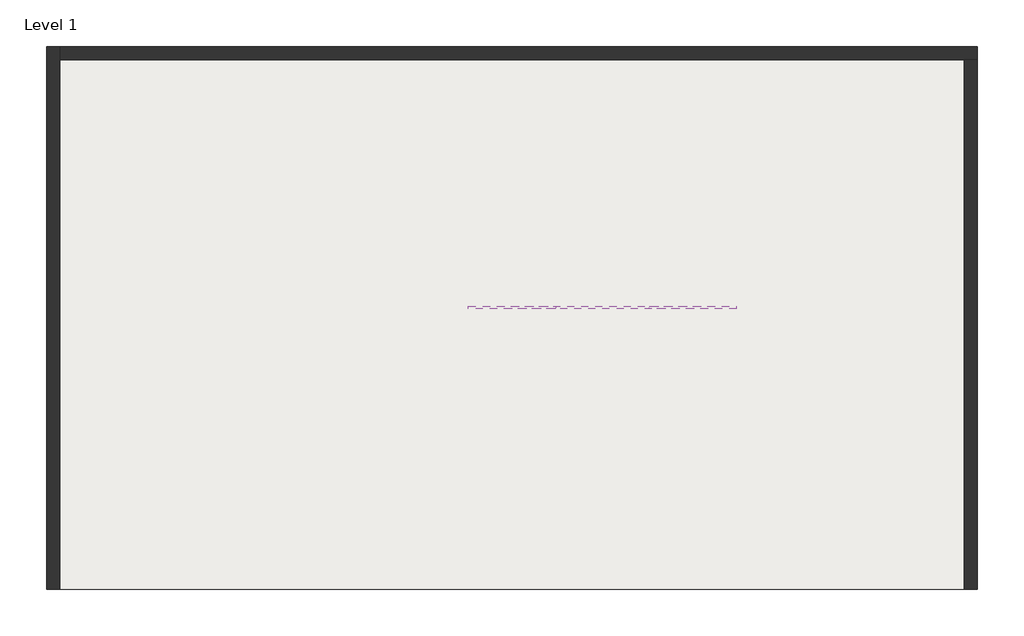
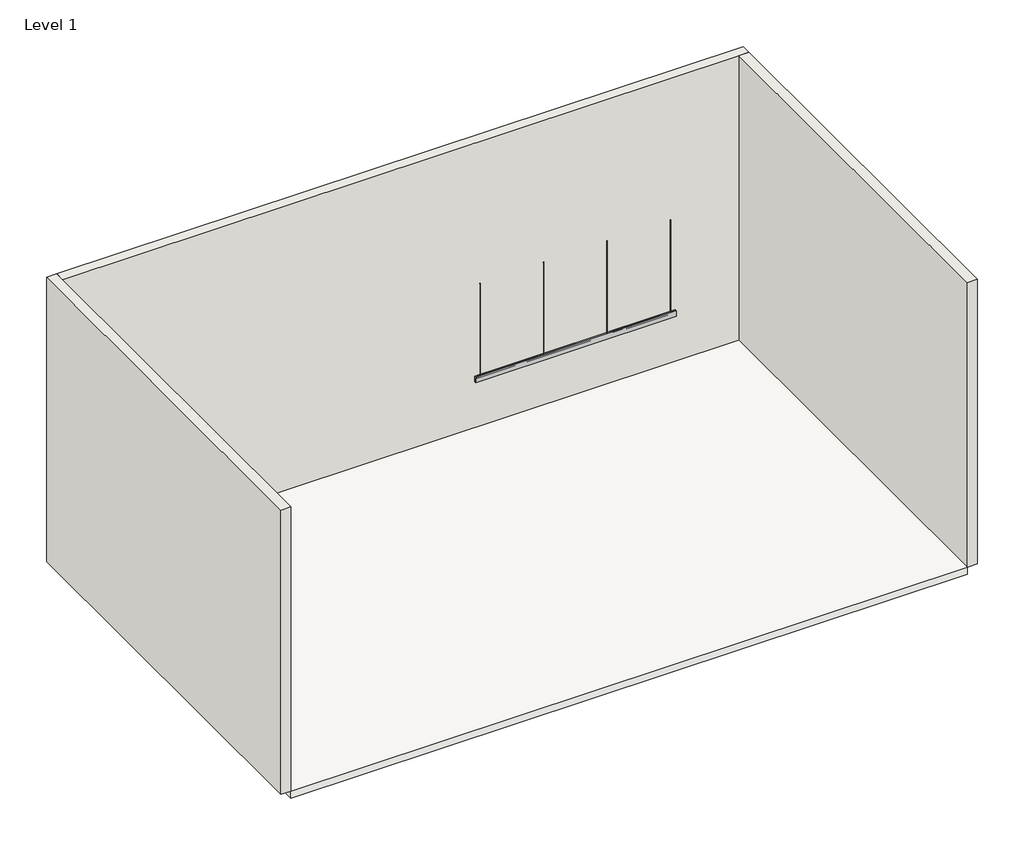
# One storey, incomplete: 3 light fixtures, 3 walls, 1 slab.
"""IFC4 building model written with IfcOpenShell, lengths in millimetres."""

from ifc_helpers import new_model, si_unit, frame, origin, origin_with_axes, place, context, project, spatial, polyline, outline, extrude, faceted_brep, transform, mapped, element, save
from components import light_fixture_b9eeb79a, light_fixture_33ea9d1e

model = new_model("IFC4")

# Units and contexts
model_context = context("Model", 3, world=origin())
ifc_project = project(units=[si_unit("LENGTHUNIT", "METRE", prefix="MILLI")], contexts=[model_context])

# Site, building, storey
site = spatial("IfcSite", under=ifc_project)
building = spatial("IfcBuilding", under=site)
storey = spatial("IfcBuildingStorey", under=building, Name="Level 1", Elevation=0.0)

# Light fixtures
placement = place(None, origin())
light_fixture_shape = light_fixture_b9eeb79a(model_context)
element("IfcLightFixture", 1, ObjectType="Zumtobel SUI TID : SUI TID L1300 2200-840 300MA", at=placement, inside=storey, context=model_context, shape_type="MappedRepresentation", body=[
    mapped(light_fixture_shape, transform((-11769.1037795, 7497.9554472, 4030.0), x_axis=(0.0, 1.0, 0.0), y_axis=(-1.0, 0.0, 0.0), z_axis=(0.0, 0.0, 1.0))),
])
element("IfcLightFixture", 2, ObjectType="Zumtobel SUI TID : SUI TID L1300 2200-840 300MA", at=placement, inside=storey, context=model_context, shape_type="MappedRepresentation", body=[
    mapped(light_fixture_shape, transform((-9069.1037795, 7497.9554472, 4030.0), x_axis=(0.0, 1.0, 0.0), y_axis=(-1.0, 0.0, 0.0), z_axis=(0.0, 0.0, 1.0))),
])
light_fixture_2_shape = light_fixture_33ea9d1e(model_context)
element("IfcLightFixture", 3, ObjectType="Zumtobel SUPERSYSTEM II Track H : 3PH/L3+DALI Track 3000 WH + Track Profile", at=placement, inside=storey, context=model_context, shape_type="MappedRepresentation", body=[
    mapped(light_fixture_2_shape, transform((-10669.1037795, 7658.255452, 6000.0), x_axis=(0.0, -1.0, 0.0), y_axis=(-1.0, 0.0, 0.0), z_axis=(0.0, 0.0, -1.0))),
])

# Slab
element("IfcSlab", 4, ObjectType="Floor", at=placement, inside=storey, context=model_context, shape_type="SweptSolid", body=[
    extrude(outline(polyline([(-5019.1037795, 11597.455452), (-5019.1037795, 3697.455452), (-18519.1037795, 3697.455452), (-18519.1037795, 11597.455452), (-5019.1037795, 11597.455452)])), frame((0.0, 0.0, -150.0), z_axis=(0.0, 0.0, 1.0), x_axis=(1.0, 0.0, 0.0)), (0.0, 0.0, 1.0), 150.0),
])

# Walls
element("IfcWall", 5, ObjectType="Exterior - Brick on Mtl. Stud", at=placement, inside=storey, context=model_context, shape_type="Brep", body=[
    faceted_brep([(-18519.1037795, 3697.455452, 0.0), (-18519.1037795, 11597.455452, 0.0), (-18519.1037795, 11797.455452, 0.0), (-18519.1037795, 11797.455452, 6000.0), (-18519.1037795, 11597.455452, 6000.0), (-18519.1037795, 3697.455452, 6000.0), (-18719.1037795, 3697.455452, 0.0), (-18719.1037795, 3697.455452, 6000.0), (-18719.1037795, 11797.455452, 6000.0), (-18719.1037795, 11797.455452, 0.0)], [[[0, 1, 2, 3, 4, 5]], [[6, 7, 8, 9]], [[2, 1, 0, 6, 9]], [[5, 4, 3, 8, 7]], [[0, 5, 7, 6]], [[3, 2, 9, 8]]]),
])
element("IfcWall", 6, ObjectType="Exterior - Brick on Mtl. Stud", at=placement, inside=storey, context=model_context, shape_type="Brep", body=[
    faceted_brep([(-18519.1037795, 11597.455452, 0.0), (-5019.1037795, 11597.455452, 0.0), (-4819.1037795, 11597.455452, 0.0), (-4819.1037795, 11597.455452, 6000.0), (-5019.1037795, 11597.455452, 6000.0), (-18519.1037795, 11597.455452, 6000.0), (-18519.1037795, 11797.455452, 0.0), (-18519.1037795, 11797.455452, 6000.0), (-4819.1037795, 11797.455452, 6000.0), (-4819.1037795, 11797.455452, 0.0)], [[[0, 1, 2, 3, 4, 5]], [[6, 7, 8, 9]], [[2, 1, 0, 6, 9]], [[5, 4, 3, 8, 7]], [[0, 5, 7, 6]], [[3, 2, 9, 8]]]),
])
element("IfcWall", 7, ObjectType="Exterior - Brick on Mtl. Stud", at=placement, inside=storey, context=model_context, shape_type="SweptSolid", body=[
    extrude(outline(polyline([(-5019.1037795, 3697.455452), (-5019.1037795, 11597.455452), (-4819.1037795, 11597.455452), (-4819.1037795, 3697.455452), (-5019.1037795, 3697.455452)])), origin_with_axes(), (0.0, 0.0, 1.0), 6000.0),
])

save(model, "model.ifc")
